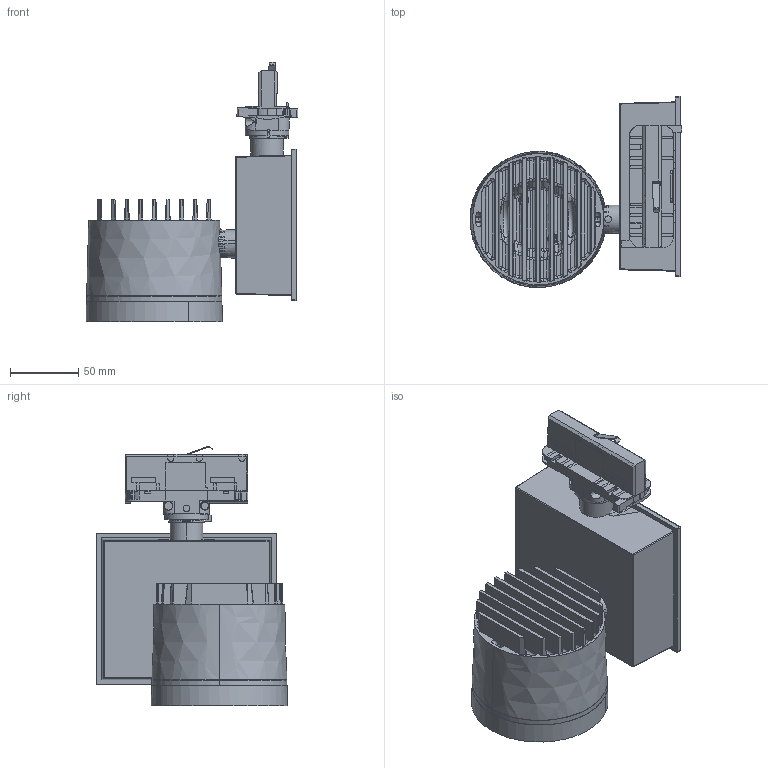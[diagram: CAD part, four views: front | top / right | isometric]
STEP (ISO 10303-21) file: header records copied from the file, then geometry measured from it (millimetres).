
FILE_DESCRIPTION(/* description */ (''),/* implementation_level */ '2;1');
FILE_NAME(/* name */ 'AD14S0Y__',/* time_stamp */ '2018-02-19T14:56:49+01:00',/* author */ (''),/* organization */ (''),/* preprocessor_version */ 'ST-DEVELOPER v15',/* originating_system */ '',/* authorisation */ '');
FILE_SCHEMA (('CONFIG_CONTROL_DESIGN'));
Length unit declared in the file: millimetre
Products named in the file (1): Document
Bounding box: 155.38 x 140.05 x 190.48 mm (x, y, z)
Surface area: 158929.4 mm2 (no closed solid volume)
Topology: 0 solids, 754 shells, 777 faces, 4130 edges, 4026 vertices
Faces by surface type: bspline 508, plane 269
Entity records: 56966 total; most frequent: CARTESIAN_POINT 37826, ORIENTED_EDGE 4116, EDGE_CURVE 4065, VERTEX_POINT 4028, B_SPLINE_CURVE_WITH_KNOTS 2171, EDGE_LOOP 791, ADVANCED_FACE 775, FACE_OUTER_BOUND 775
